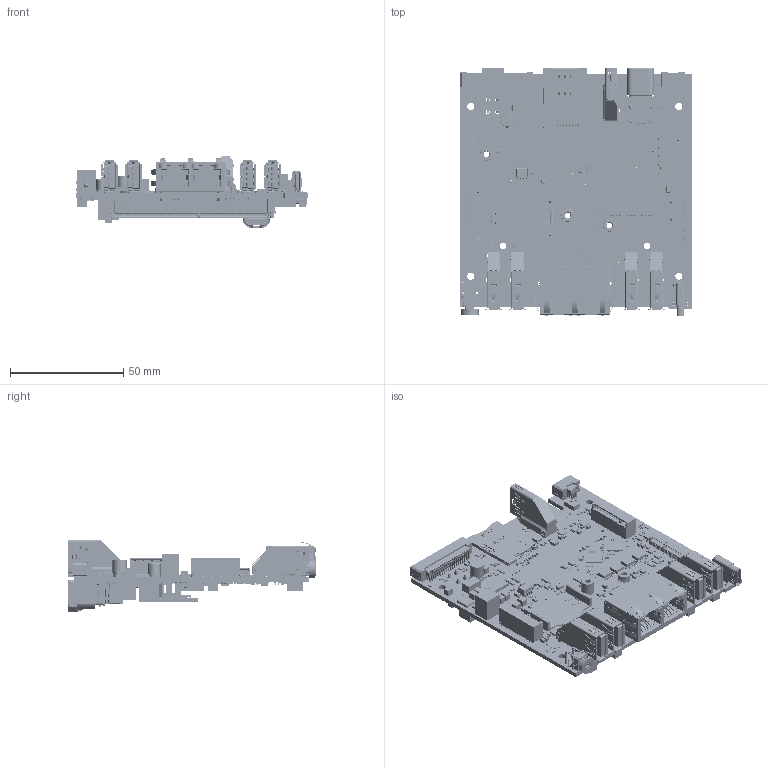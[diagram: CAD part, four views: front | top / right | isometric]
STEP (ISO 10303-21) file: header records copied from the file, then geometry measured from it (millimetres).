
FILE_DESCRIPTION(('Open CASCADE Model'),'2;1');
FILE_NAME('Open CASCADE Shape Model','2025-12-04T15:03:07',('Author'),( 'Open CASCADE'),'Open CASCADE STEP processor 7.5','Open CASCADE 7.5' ,'Unknown');
FILE_SCHEMA(('AUTOMOTIVE_DESIGN { 1 0 10303 214 1 1 1 1 }'));
Length unit declared in the file: millimetre
Products named in the file (1212): PCB; Board; Open CASCADE STEP translator 7.5 1.1.1; R220; 7622943872; Extruded; 7622943632; R125; R120; 7602680144; 7602680384; R118; 7602680784; 7602680544; R115; R110; R108; U29; 7516551024; Open CASCADE STEP translator 7.5 3.1; Body; Open CASCADE STEP translator 7.5 3.2.1; Thermal Shape; Pin Shape; Open CASCADE STEP translator 7.5 3.4.1; Q25; 7516552064; Open CASCADE STEP translator 6.8 12.1.1; Leader; C69; 7602672944; 7602672784; C230; 7602671664; 7602671504; R264; R262; P9; 530470410; Open CASCADE STEP translator 7.5 1.15.1.1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
Assembly tree (3363 placements, depth 5):
  PCB
    Board
      Open CASCADE STEP translator 7.5 1.1.1
    R220
      7622943872  x2
        Extruded
      7622943632
        Extruded
    R125
      7622943872  x2
        Extruded
      7622943632
        Extruded
    R120
      7602680144
        Extruded
      7602680384  x2
        Extruded
    R118
      7602680784  x2
        Extruded
      7602680544
        Extruded
    R115
      7602680384  x2
        Extruded
      7602680144
        Extruded
    R110
      7602680784  x2
        Extruded
      7602680544
        Extruded
    R108
      7602680784  x2
        Extruded
      7602680544
        Extruded
    U29
      7516551024
        Open CASCADE STEP translator 7.5 3.1
        Body
          Open CASCADE STEP translator 7.5 3.2.1
        Thermal Shape
        Pin Shape  x12
          Open CASCADE STEP translator 7.5 3.4.1
    Q25
      7516552064
        Body
          Open CASCADE STEP translator 6.8 12.1.1
        Leader  x3
    C69
      7602672944  x2
        Extruded
      7602672784
        Extruded
    C230
      7602671664  x2
        Extruded
      7602671504
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Bounding box: 103 x 109.42 x 31.98 mm (x, y, z)
Volume: 50138.5 mm3; surface area: 81539.1 mm2
Topology: 2717 solids, 2779 shells, 50365 faces, 126530 edges, 81980 vertices
Faces by surface type: plane 36312, cylinder 9628, bspline 3917, sphere 240, cone 132, torus 130, revolution 6
Full cylindrical faces by diameter (mm): 0.056 x2, 0.102 x5, 0.199 x4, 0.206 x1, 0.325 x1, 0.33 x17, 0.457 x46, 0.5 x5, 0.512 x1, 0.55 x19, 0.6 x1, 0.65 x4, 0.7 x36, 0.762 x1, 0.8 x1, 0.838 x8, 0.894 x2, 0.91 x20, 1 x7, 1.02 x8, 1.1 x3, 1.125 x1, 1.2 x1, 1.5 x4, 1.57 x2, 1.6 x5, 1.7 x2, 1.8 x4, 2.896 x2, 3.174 x4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
Entity records: 799779 total; most frequent: CARTESIAN_POINT 162658, ORIENTED_EDGE 122174, DIRECTION 121010, EDGE_CURVE 61090, LINE 46114, VECTOR 46114, VERTEX_POINT 40012, AXIS2_PLACEMENT_3D 37447
